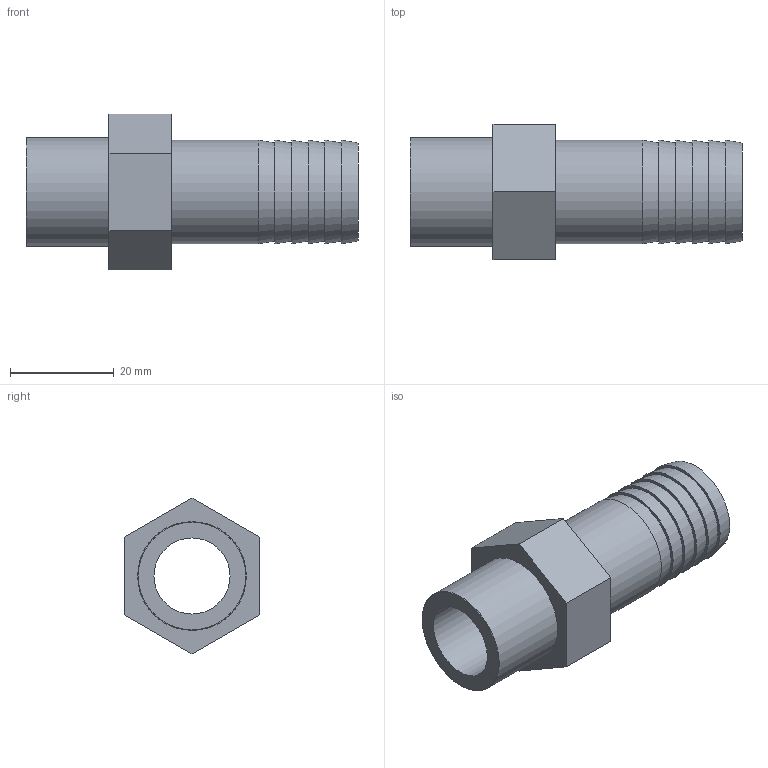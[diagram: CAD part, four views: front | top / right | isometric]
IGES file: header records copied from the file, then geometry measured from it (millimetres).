
Global section: file name: 053601020005.ipt; native system: Autodesk Inventor 2015; preprocessor: unknown; author: KIM; date: 20171207.165525; units: millimetre
Bounding box: 64 x 26 x 30.02 mm (x, y, z)
Volume: 12703.5 mm3; surface area: 8296.7 mm2
Topology: 1 solids, 1 shells, 25 faces, 50 edges, 34 vertices
Faces by surface type: plane 15, cone 6, revolution 2, cylinder 2
Full cylindrical faces by diameter (mm): 20 x1, 20.955 x1
